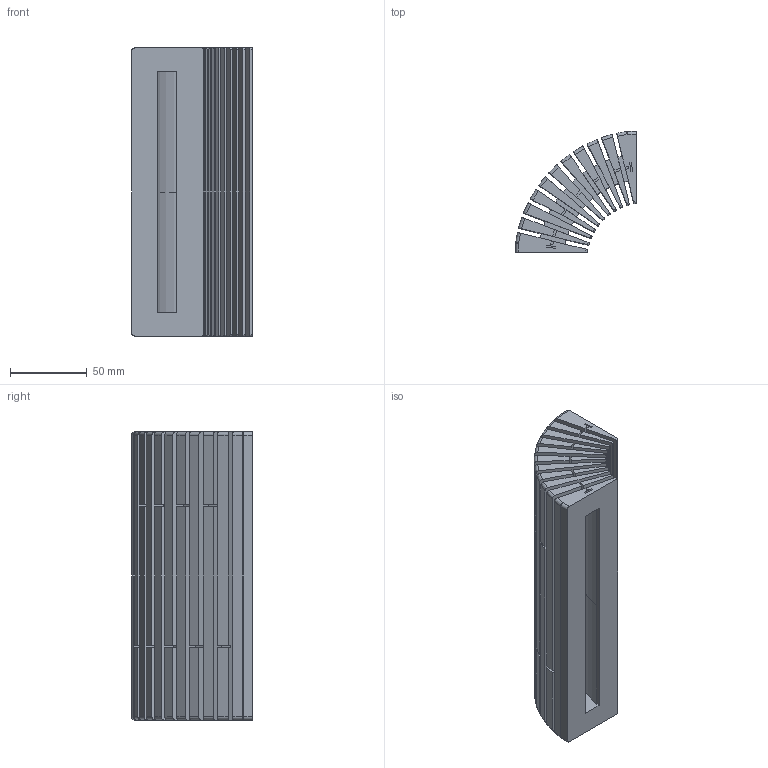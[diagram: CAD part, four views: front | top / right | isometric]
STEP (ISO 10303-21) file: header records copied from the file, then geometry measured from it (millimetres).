
FILE_DESCRIPTION ((), '1');
FILE_NAME ('C:\Users\tprototype\Desktop\TeslaGen Project\TeslaGen-v1 CAD Package\CNC Parts\Bobbin-STL\CAD File\HV Bobbin.stp', '2016-11-09T10:01:36', ('Unknown'), ('Unknown'), 'HarmonyWare STEP v1.7.11', 'HarmonyWare Translators', '');
FILE_SCHEMA (('CONFIG_CONTROL_DESIGN'));
Length unit declared in the file: millimetre
Products named in the file (1): product-name
Bounding box: 78.65 x 78.65 x 187.44 mm (x, y, z)
Volume: 393106.9 mm3; surface area: 203161.5 mm2
Topology: 1 solids, 1 shells, 292 faces, 834 edges, 568 vertices
Faces by surface type: bspline 292
Entity records: 16824 total; most frequent: CARTESIAN_POINT 11800, ORIENTED_EDGE 1668, EDGE_CURVE 834, B_SPLINE_CURVE_WITH_KNOTS 752, VERTEX_POINT 568, EDGE_LOOP 318, FACE_OUTER_BOUND 292, ADVANCED_FACE 292
